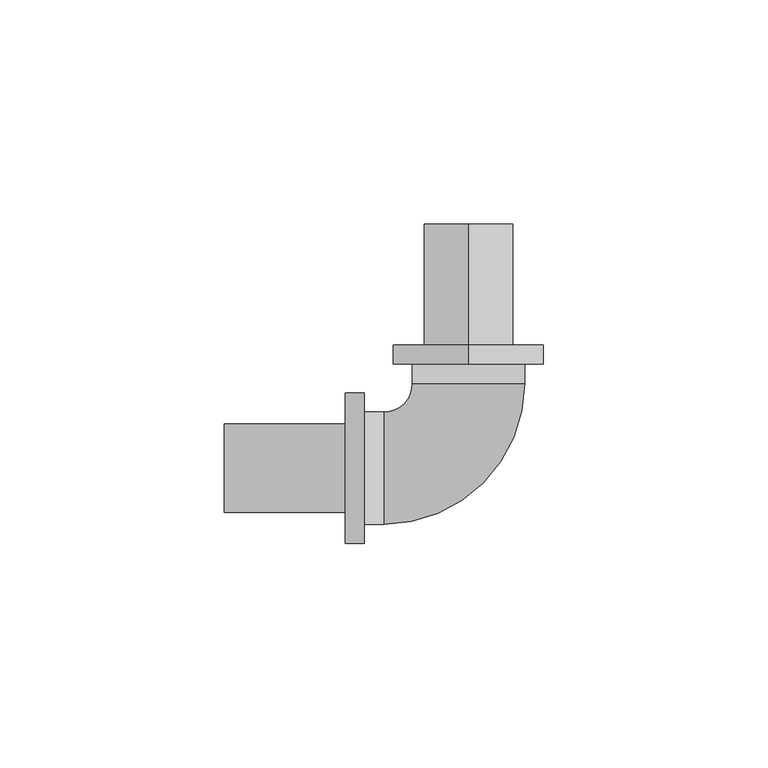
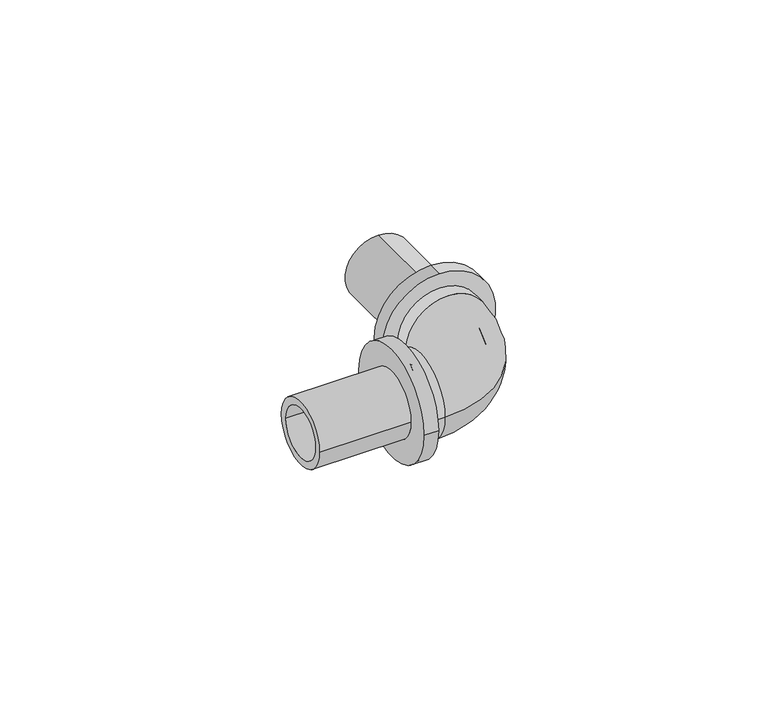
"""IFC4 building model written with IfcOpenShell, lengths in millimetres: pipe fitting geometry, RAUTITAN_Corner_RX+ : RTI RX+ C DN."""

from ifc_helpers import new_model, si_unit, point, frame, origin, place, context, project, spatial, polyline, circle_curve, ellipse_curve, trimmed, source, transform, mapped, element, save
from ifc_brep_helpers import plane_surface, cylinder_surface, revolved_surface, advanced_brep


def pipe_fitting_ad9c1ac8(model_context):
    return source(origin(), model_context, "Body", "AdvancedBrep", [
        advanced_brep(
        [(0.0, 27.5, 16.8), (0.0, 27.5, -16.8), (0.0, 23.3, -16.8), (0.0, 23.3, 16.8), (0.0, 54.5, 9.9), (0.0, 54.5, -9.9), (0.0, 27.5, -9.9), (0.0, 27.5, 9.9), (0.0, 23.3, 7.6), (0.0, 23.3, -7.6), (0.0, 54.5, -7.6), (0.0, 54.5, 7.6)],
        [
            (0, 1, circle_curve(frame((0.0, 27.5, 0.0), z_axis=(0.0, -1.0, 0.0), x_axis=(0.0, 0.0, -1.0)), 16.8)),
            (1, 2),
            (2, 3, circle_curve(frame((0.0, 23.3, 0.0), z_axis=(0.0, 1.0, 0.0), x_axis=(0.0, 0.0, -1.0)), 16.8)),
            (3, 0),
            (4, 5, circle_curve(frame((0.0, 54.5, 0.0), z_axis=(0.0, -1.0, 0.0), x_axis=(0.0, 0.0, -1.0)), 9.9)),
            (5, 6),
            (6, 7, circle_curve(frame((0.0, 27.5, 0.0), z_axis=(0.0, 1.0, 0.0), x_axis=(0.0, 0.0, -1.0)), 9.9)),
            (7, 4),
            (8, 9, circle_curve(frame((0.0, 23.3, 0.0), z_axis=(0.0, -1.0, 0.0), x_axis=(0.0, 0.0, -1.0)), 7.6)),
            (9, 10),
            (10, 11, circle_curve(frame((0.0, 54.5, 0.0), z_axis=(0.0, 1.0, 0.0), x_axis=(0.0, 0.0, -1.0)), 7.6)),
            (11, 8),
            (1, 0, circle_curve(frame((0.0, 27.5, 0.0), z_axis=(0.0, -1.0, 0.0), x_axis=(0.0, 0.0, 1.0)), 16.8)),
            (3, 2, circle_curve(frame((0.0, 23.3, 0.0), z_axis=(0.0, 1.0, 0.0), x_axis=(0.0, 0.0, 1.0)), 16.8)),
            (6, 7, circle_curve(frame((0.0, 27.5, 0.0), z_axis=(0.0, -1.0, 0.0), x_axis=(0.0, 0.0, 1.0)), 9.9)),
            (5, 4, circle_curve(frame((0.0, 54.5, 0.0), z_axis=(0.0, -1.0, 0.0), x_axis=(0.0, 0.0, 1.0)), 9.9)),
            (10, 11, circle_curve(frame((0.0, 54.5, 0.0), z_axis=(0.0, -1.0, 0.0), x_axis=(0.0, 0.0, 1.0)), 7.6)),
            (9, 8, circle_curve(frame((0.0, 23.3, 0.0), z_axis=(0.0, -1.0, 0.0), x_axis=(0.0, 0.0, 1.0)), 7.6)),
        ],
        [
            cylinder_surface(frame((0.0, 23.3, 0.0), z_axis=(0.0, 1.0, 0.0), x_axis=(0.0, 0.0, -1.0)), 16.8),
            cylinder_surface(frame((0.0, 23.3, 0.0), z_axis=(0.0, 1.0, 0.0), x_axis=(0.0, 0.0, -1.0)), 9.9),
            revolved_surface(polyline([(0.0, 54.5, -7.6), (0.0, 23.3, -7.6)]), (0.0, 23.3, 0.0), (0.0, 1.0, 0.0)),
            cylinder_surface(frame((0.0, 23.3, 0.0), z_axis=(0.0, 1.0, 0.0), x_axis=(0.0, 0.0, 1.0)), 16.8),
            plane_surface(frame((0.0, 27.5, 0.0), z_axis=(0.0, 1.0, 0.0), x_axis=(0.0, 0.0, 1.0))),
            cylinder_surface(frame((0.0, 23.3, 0.0), z_axis=(0.0, 1.0, 0.0), x_axis=(0.0, 0.0, 1.0)), 9.9),
            plane_surface(frame((0.0, 54.5, 0.0), z_axis=(0.0, 1.0, 0.0), x_axis=(0.0, 0.0, 1.0))),
            revolved_surface(polyline([(0.0, 54.5, 7.6), (0.0, 23.3, 7.6)]), (0.0, 23.3, 0.0), (0.0, 1.0, 0.0)),
            plane_surface(frame((0.0, 23.3, 0.0), z_axis=(0.0, -1.0, 0.0), x_axis=(0.0, 0.0, 1.0))),
        ],
        [
            (0, [[1, 2, 3, 4]]),
            (1, [[5, 6, 7, 8]]),
            (2, [[9, 10, 11, 12]]),
            (3, [[13, -4, 14, -2]]),
            (4, [[-13, -1], [15, -7]]),
            (5, [[16, -8, -15, -6]]),
            (6, [[-16, -5], [17, -11]]),
            (7, [[18, -12, -17, -10]]),
            (8, [[-14, -3], [-18, -9]]),
        ],
    ),
        advanced_brep(
        [(-27.5, -16.8, 0.0), (-27.5, 16.8, 0.0), (-23.3, 16.8, 0.0), (-23.3, -16.8, 0.0), (-54.5, -9.9, 0.0), (-54.5, 9.9, 0.0), (-27.5, 9.9, 0.0), (-27.5, -9.9, 0.0), (-23.3, -7.6, 0.0), (-23.3, 7.6, 0.0), (-54.5, 7.6, 0.0), (-54.5, -7.6, 0.0)],
        [
            (0, 1, circle_curve(frame((-27.5, 0.0, 0.0), z_axis=(1.0, 0.0, 0.0), x_axis=(0.0, 1.0, 0.0)), 16.8)),
            (1, 2),
            (2, 3, circle_curve(frame((-23.3, 0.0, 0.0), z_axis=(-1.0, 0.0, 0.0), x_axis=(0.0, 1.0, 0.0)), 16.8)),
            (3, 0),
            (4, 5, circle_curve(frame((-54.5, 0.0, 0.0), z_axis=(1.0, 0.0, 0.0), x_axis=(0.0, 1.0, 0.0)), 9.9)),
            (5, 6),
            (6, 7, circle_curve(frame((-27.5, 0.0, 0.0), z_axis=(-1.0, 0.0, 0.0), x_axis=(0.0, 1.0, 0.0)), 9.9)),
            (7, 4),
            (8, 9, circle_curve(frame((-23.3, 0.0, 0.0), z_axis=(1.0, 0.0, 0.0), x_axis=(0.0, 1.0, 0.0)), 7.6)),
            (9, 10),
            (10, 11, circle_curve(frame((-54.5, 0.0, 0.0), z_axis=(-1.0, 0.0, 0.0), x_axis=(0.0, 1.0, 0.0)), 7.6)),
            (11, 8),
            (1, 0, circle_curve(frame((-27.5, 0.0, 0.0), z_axis=(1.0, 0.0, 0.0), x_axis=(0.0, -1.0, 0.0)), 16.8)),
            (3, 2, circle_curve(frame((-23.3, 0.0, 0.0), z_axis=(-1.0, 0.0, 0.0), x_axis=(0.0, -1.0, 0.0)), 16.8)),
            (6, 7, circle_curve(frame((-27.5, 0.0, 0.0), z_axis=(1.0, 0.0, 0.0), x_axis=(0.0, -1.0, 0.0)), 9.9)),
            (5, 4, circle_curve(frame((-54.5, 0.0, 0.0), z_axis=(1.0, 0.0, 0.0), x_axis=(0.0, -1.0, 0.0)), 9.9)),
            (10, 11, circle_curve(frame((-54.5, 0.0, 0.0), z_axis=(1.0, 0.0, 0.0), x_axis=(0.0, -1.0, 0.0)), 7.6)),
            (9, 8, circle_curve(frame((-23.3, 0.0, 0.0), z_axis=(1.0, 0.0, 0.0), x_axis=(0.0, -1.0, 0.0)), 7.6)),
        ],
        [
            cylinder_surface(frame((-23.3, 0.0, 0.0), z_axis=(-1.0, 0.0, 0.0), x_axis=(0.0, 1.0, 0.0)), 16.8),
            cylinder_surface(frame((-23.3, 0.0, 0.0), z_axis=(-1.0, 0.0, 0.0), x_axis=(0.0, 1.0, 0.0)), 9.9),
            revolved_surface(polyline([(-54.5, 7.6, 0.0), (-23.3, 7.6, 0.0)]), (-23.3, 0.0, 0.0), (-1.0, 0.0, 0.0)),
            cylinder_surface(frame((-23.3, 0.0, 0.0), z_axis=(-1.0, 0.0, 0.0), x_axis=(0.0, -1.0, 0.0)), 16.8),
            plane_surface(frame((-27.5, 0.0, 0.0), z_axis=(-1.0, 0.0, 0.0), x_axis=(0.0, -1.0, 0.0))),
            cylinder_surface(frame((-23.3, 0.0, 0.0), z_axis=(-1.0, 0.0, 0.0), x_axis=(0.0, -1.0, 0.0)), 9.9),
            plane_surface(frame((-54.5, 0.0, 0.0), z_axis=(-1.0, 0.0, 0.0), x_axis=(0.0, -1.0, 0.0))),
            revolved_surface(polyline([(-54.5, -7.6, 0.0), (-23.3, -7.6, 0.0)]), (-23.3, 0.0, 0.0), (-1.0, 0.0, 0.0)),
            plane_surface(frame((-23.3, 0.0, 0.0), z_axis=(1.0, 0.0, 0.0), x_axis=(0.0, -1.0, 0.0))),
        ],
        [
            (0, [[1, 2, 3, 4]]),
            (1, [[5, 6, 7, 8]]),
            (2, [[9, 10, 11, 12]]),
            (3, [[13, -4, 14, -2]]),
            (4, [[-13, -1], [15, -7]]),
            (5, [[16, -8, -15, -6]]),
            (6, [[-16, -5], [17, -11]]),
            (7, [[18, -12, -17, -10]]),
            (8, [[-14, -3], [-18, -9]]),
        ],
    ),
        advanced_brep(
        [(-23.3, 12.5, 0.0), (-23.3, -12.5, 0.0), (-23.3, 7.6, 0.0), (-23.3, -7.6, 0.0), (-18.9, -7.6, 0.0), (-18.9, 7.6, 0.0), (-18.9, -12.5, 0.0), (-18.9, 12.5, 0.0), (12.5, 23.3, 0.0), (-12.5, 23.3, 0.0), (7.6, 23.3, 0.0), (-7.6, 23.3, 0.0), (-7.6, 18.9, 0.0), (7.6, 18.9, 0.0), (-12.5, 18.9, 0.0), (12.5, 18.9, 0.0)],
        [
            (0, 1, circle_curve(frame((-23.3, 0.0, 0.0), z_axis=(-1.0, 0.0, 0.0), x_axis=(0.0, -1.0, 0.0)), 12.5)),
            (1, 0, circle_curve(frame((-23.3, 0.0, 0.0), z_axis=(-1.0, 0.0, 0.0), x_axis=(0.0, -1.0, 0.0)), 12.5)),
            (2, 3, circle_curve(frame((-23.3, 0.0, 0.0), z_axis=(1.0, 0.0, 0.0), x_axis=(0.0, -1.0, 0.0)), 7.6)),
            (3, 2, circle_curve(frame((-23.3, 0.0, 0.0), z_axis=(1.0, 0.0, 0.0), x_axis=(0.0, -1.0, 0.0)), 7.6)),
            (3, 4),
            (4, 5, circle_curve(frame((-18.9, 0.0, 0.0), z_axis=(1.0, 0.0, 0.0), x_axis=(0.0, -1.0, 0.0)), 7.6)),
            (5, 2),
            (5, 4, circle_curve(frame((-18.9, 0.0, 0.0), z_axis=(1.0, 0.0, 0.0), x_axis=(0.0, -1.0, 0.0)), 7.6)),
            (1, 6),
            (6, 7, circle_curve(frame((-18.9, 0.0, 0.0), z_axis=(-1.0, 0.0, 0.0), x_axis=(0.0, -1.0, 0.0)), 12.5)),
            (7, 0),
            (7, 6, circle_curve(frame((-18.9, 0.0, 0.0), z_axis=(-1.0, 0.0, 0.0), x_axis=(0.0, -1.0, 0.0)), 12.5)),
            (8, 9, circle_curve(frame((0.0, 23.3, 0.0), z_axis=(0.0, 1.0, 0.0), x_axis=(-1.0, 0.0, 0.0)), 12.5)),
            (9, 8, circle_curve(frame((0.0, 23.3, 0.0), z_axis=(0.0, 1.0, 0.0), x_axis=(-1.0, 0.0, 0.0)), 12.5)),
            (10, 11, circle_curve(frame((0.0, 23.3, 0.0), z_axis=(0.0, -1.0, 0.0), x_axis=(-1.0, 0.0, 0.0)), 7.6)),
            (11, 10, circle_curve(frame((0.0, 23.3, 0.0), z_axis=(0.0, -1.0, 0.0), x_axis=(-1.0, 0.0, 0.0)), 7.6)),
            (11, 12),
            (12, 13, circle_curve(frame((0.0, 18.9, 0.0), z_axis=(0.0, -1.0, 0.0), x_axis=(-1.0, 0.0, 0.0)), 7.6)),
            (13, 10),
            (13, 12, circle_curve(frame((0.0, 18.9, 0.0), z_axis=(0.0, -1.0, 0.0), x_axis=(-1.0, 0.0, 0.0)), 7.6)),
            (9, 14),
            (14, 15, circle_curve(frame((0.0, 18.9, 0.0), z_axis=(0.0, 1.0, 0.0), x_axis=(-1.0, 0.0, 0.0)), 12.5)),
            (15, 8),
            (15, 14, circle_curve(frame((0.0, 18.9, 0.0), z_axis=(0.0, 1.0, 0.0), x_axis=(-1.0, 0.0, 0.0)), 12.5)),
            (12, 5, circle_curve(frame((-18.9, 18.9, 0.0), z_axis=(0.0, 0.0, -1.0), x_axis=(0.0, -1.0, 0.0)), 11.3)),
            (4, 13, circle_curve(frame((-18.9, 18.9, 0.0), z_axis=(0.0, 0.0, 1.0), x_axis=(0.0, -1.0, 0.0)), 26.5)),
            (14, 7, circle_curve(frame((-18.9, 18.9, 0.0), z_axis=(0.0, 0.0, -1.0), x_axis=(0.0, -1.0, 0.0)), 6.4)),
            (6, 15, circle_curve(frame((-18.9, 18.9, 0.0), z_axis=(0.0, 0.0, 1.0), x_axis=(0.0, -1.0, 0.0)), 31.4)),
        ],
        [
            plane_surface(frame((-23.3, 0.0, 0.0), z_axis=(-1.0, 0.0, 0.0), x_axis=(0.0, 0.0, 1.0))),
            revolved_surface(polyline([(-23.3, -7.6, 0.0), (-18.9, -7.6, 0.0)]), (-18.9, 0.0, 0.0), (-1.0, 0.0, 0.0)),
            cylinder_surface(frame((-18.9, 0.0, 0.0), z_axis=(1.0, 0.0, 0.0), x_axis=(0.0, -1.0, 0.0)), 12.5),
            plane_surface(frame((0.0, 23.3, 0.0), z_axis=(0.0, 1.0, 0.0), x_axis=(0.0, 0.0, 1.0))),
            revolved_surface(polyline([(-7.6, 23.3, 0.0), (-7.6, 18.9, 0.0)]), (0.0, 18.9, 0.0), (0.0, 1.0, 0.0)),
            cylinder_surface(frame((0.0, 18.9, 0.0), z_axis=(0.0, -1.0, 0.0), x_axis=(-1.0, 0.0, 0.0)), 12.5),
            revolved_surface(trimmed(ellipse_curve(frame((-18.9, 0.0, 0.0), z_axis=(1.0, 0.0, 0.0), x_axis=(0.0, 1.0, 0.0)), 7.6, 7.6), [point((-18.9, -7.6, 0.0))], [point((-18.9, 7.6, 0.0))], True, "CARTESIAN"), (-18.9, 18.9, 0.0), (0.0, 0.0, 1.0)),
            revolved_surface(trimmed(ellipse_curve(frame((-18.9, 0.0, 0.0), z_axis=(1.0, 0.0, 0.0), x_axis=(0.0, 1.0, 0.0)), 7.6, 7.6), [point((-18.9, 7.6, 0.0))], [point((-18.9, -7.6, 0.0))], True, "CARTESIAN"), (-18.9, 18.9, 0.0), (0.0, 0.0, 1.0)),
            revolved_surface(trimmed(ellipse_curve(frame((-18.9, 0.0, 0.0), z_axis=(-1.0, 0.0, 0.0), x_axis=(0.0, 1.0, 0.0)), 12.5, 12.5), [point((-18.9, -12.5, 0.0))], [point((-18.9, 12.5, 0.0))], True, "CARTESIAN"), (-18.9, 18.9, 0.0), (0.0, 0.0, 1.0)),
            revolved_surface(trimmed(ellipse_curve(frame((-18.9, 0.0, 0.0), z_axis=(-1.0, 0.0, 0.0), x_axis=(0.0, 1.0, 0.0)), 12.5, 12.5), [point((-18.9, 12.5, 0.0))], [point((-18.9, -12.5, 0.0))], True, "CARTESIAN"), (-18.9, 18.9, 0.0), (0.0, 0.0, 1.0)),
        ],
        [
            (0, [[1, 2], [3, 4]]),
            (1, [[-4, 5, 6, 7]]),
            (1, [[-3, -7, 8, -5]]),
            (2, [[-2, 9, 10, 11]]),
            (2, [[-1, -11, 12, -9]]),
            (3, [[13, 14], [15, 16]]),
            (4, [[-16, 17, 18, 19]]),
            (4, [[-15, -19, 20, -17]]),
            (5, [[-14, 21, 22, 23]]),
            (5, [[-13, -23, 24, -21]]),
            (6, [[25, -6, 26, -18]]),
            (7, [[-25, -20, -26, -8]]),
            (8, [[27, -10, 28, -22]]),
            (9, [[-27, -24, -28, -12]]),
        ],
    ),
    ])


if __name__ == "__main__":
    model = new_model("IFC4")
    model_context = context("Model", 3, world=origin())
    ifc_project = project(units=[si_unit("LENGTHUNIT", "METRE", prefix="MILLI")], contexts=[model_context])
    site = spatial("IfcSite", under=ifc_project)
    building = spatial("IfcBuilding", under=site)
    placement = place(None, origin())
    pipe_fitting_shape = pipe_fitting_ad9c1ac8(model_context)
    element("IfcPipeFitting", 1, ObjectType="RAUTITAN_Corner_RX+ : RTI RX+ C DN", at=placement, inside=building, context=model_context, shape_type="MappedRepresentation", body=[
        mapped(pipe_fitting_shape, transform((0.0, 0.0, 0.0), x_axis=(1.0, 0.0, 0.0), y_axis=(0.0, 1.0, 0.0), z_axis=(0.0, 0.0, 1.0))),
    ])
    save(model, "model.ifc")
